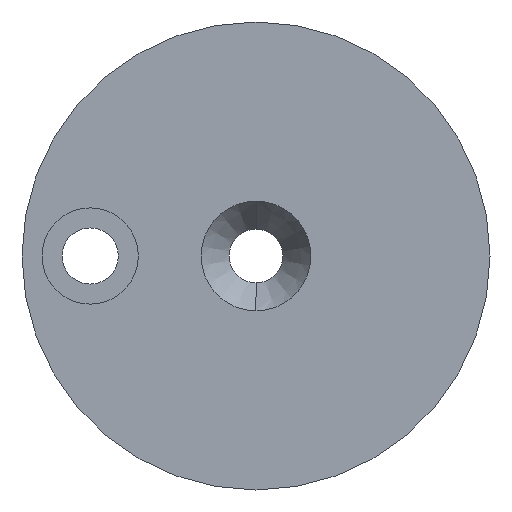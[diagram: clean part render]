
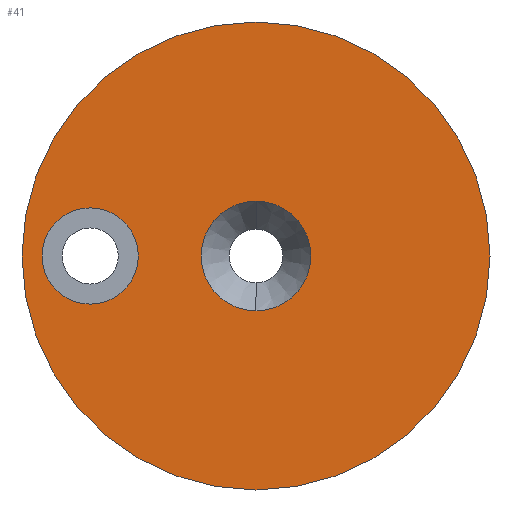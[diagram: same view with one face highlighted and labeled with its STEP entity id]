
A CAD part, left-side view. The second image highlights one B-rep face of the part: STEP entity #41.
In plain terms, the highlighted planar face has unit normal (-1, 0, 0).
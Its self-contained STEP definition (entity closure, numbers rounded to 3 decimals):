
#23 = ORIENTED_EDGE ( 'NONE', *, *, #247, .F. ) ;
#25 = DIRECTION ( 'NONE',  ( -1., 0., 0. ) ) ;
#27 = CARTESIAN_POINT ( 'NONE',  ( 0., 0., -17.5 ) ) ;
#28 = AXIS2_PLACEMENT_3D ( 'NONE', #576, #399, #112 ) ;
#33 = CARTESIAN_POINT ( 'NONE',  ( 0., 0., 4.101 ) ) ;
#41 = ADVANCED_FACE ( 'NONE', ( #202, #499, #491 ), #63, .F. ) ;
#52 = ORIENTED_EDGE ( 'NONE', *, *, #385, .F. ) ;
#63 = PLANE ( 'NONE',  #28 ) ;
#67 = EDGE_CURVE ( 'NONE', #439, #174, #540, .T. ) ;
#81 = VERTEX_POINT ( 'NONE', #370 ) ;
#82 = CIRCLE ( 'NONE', #194, 17.5 ) ;
#97 = EDGE_CURVE ( 'NONE', #174, #439, #82, .T. ) ;
#112 = DIRECTION ( 'NONE',  ( 0., 0., -1. ) ) ;
#116 = DIRECTION ( 'NONE',  ( -1., 0., 0. ) ) ;
#135 = CARTESIAN_POINT ( 'NONE',  ( 0., 0., 17.5 ) ) ;
#148 = ORIENTED_EDGE ( 'NONE', *, *, #367, .F. ) ;
#153 = EDGE_LOOP ( 'NONE', ( #168, #23 ) ) ;
#162 = CARTESIAN_POINT ( 'NONE',  ( 0., 12.4, 0. ) ) ;
#168 = ORIENTED_EDGE ( 'NONE', *, *, #336, .F. ) ;
#171 = DIRECTION ( 'NONE',  ( -1., 0., 0. ) ) ;
#174 = VERTEX_POINT ( 'NONE', #135 ) ;
#185 = AXIS2_PLACEMENT_3D ( 'NONE', #162, #506, #427 ) ;
#194 = AXIS2_PLACEMENT_3D ( 'NONE', #486, #507, #366 ) ;
#201 = CIRCLE ( 'NONE', #423, 3.6 ) ;
#202 = FACE_BOUND ( 'NONE', #416, .T. ) ;
#217 = CARTESIAN_POINT ( 'NONE',  ( 0., 0., 0. ) ) ;
#220 = CARTESIAN_POINT ( 'NONE',  ( 0., 0., 0. ) ) ;
#221 = VERTEX_POINT ( 'NONE', #541 ) ;
#247 = EDGE_CURVE ( 'NONE', #221, #350, #552, .T. ) ;
#280 = CIRCLE ( 'NONE', #185, 3.6 ) ;
#289 = VERTEX_POINT ( 'NONE', #445 ) ;
#321 = DIRECTION ( 'NONE',  ( 0., 0., 1. ) ) ;
#336 = EDGE_CURVE ( 'NONE', #350, #221, #371, .T. ) ;
#349 = DIRECTION ( 'NONE',  ( 0., 0., 1. ) ) ;
#350 = VERTEX_POINT ( 'NONE', #33 ) ;
#366 = DIRECTION ( 'NONE',  ( 0., 0., 1. ) ) ;
#367 = EDGE_CURVE ( 'NONE', #81, #289, #201, .T. ) ;
#368 = DIRECTION ( 'NONE',  ( 0., 0., 1. ) ) ;
#370 = CARTESIAN_POINT ( 'NONE',  ( 0., 12.4, -3.6 ) ) ;
#371 = CIRCLE ( 'NONE', #528, 4.101 ) ;
#385 = EDGE_CURVE ( 'NONE', #289, #81, #280, .T. ) ;
#397 = AXIS2_PLACEMENT_3D ( 'NONE', #406, #116, #349 ) ;
#399 = DIRECTION ( 'NONE',  ( 1., 0., 0. ) ) ;
#406 = CARTESIAN_POINT ( 'NONE',  ( 0., 0., 0. ) ) ;
#416 = EDGE_LOOP ( 'NONE', ( #52, #148 ) ) ;
#423 = AXIS2_PLACEMENT_3D ( 'NONE', #529, #171, #462 ) ;
#427 = DIRECTION ( 'NONE',  ( 0., 0., 1. ) ) ;
#432 = EDGE_LOOP ( 'NONE', ( #447, #476 ) ) ;
#439 = VERTEX_POINT ( 'NONE', #27 ) ;
#445 = CARTESIAN_POINT ( 'NONE',  ( 0., 12.4, 3.6 ) ) ;
#447 = ORIENTED_EDGE ( 'NONE', *, *, #97, .T. ) ;
#455 = DIRECTION ( 'NONE',  ( -1., 0., 0. ) ) ;
#462 = DIRECTION ( 'NONE',  ( 0., 0., 1. ) ) ;
#476 = ORIENTED_EDGE ( 'NONE', *, *, #67, .T. ) ;
#486 = CARTESIAN_POINT ( 'NONE',  ( 0., 0., 0. ) ) ;
#491 = FACE_OUTER_BOUND ( 'NONE', #432, .T. ) ;
#499 = FACE_BOUND ( 'NONE', #153, .T. ) ;
#506 = DIRECTION ( 'NONE',  ( -1., 0., 0. ) ) ;
#507 = DIRECTION ( 'NONE',  ( -1., 0., 0. ) ) ;
#528 = AXIS2_PLACEMENT_3D ( 'NONE', #220, #455, #368 ) ;
#529 = CARTESIAN_POINT ( 'NONE',  ( 0., 12.4, 0. ) ) ;
#539 = AXIS2_PLACEMENT_3D ( 'NONE', #217, #25, #321 ) ;
#540 = CIRCLE ( 'NONE', #397, 17.5 ) ;
#541 = CARTESIAN_POINT ( 'NONE',  ( 0., 0., -4.101 ) ) ;
#552 = CIRCLE ( 'NONE', #539, 4.101 ) ;
#576 = CARTESIAN_POINT ( 'NONE',  ( 0., 4.101, 0. ) ) ;
